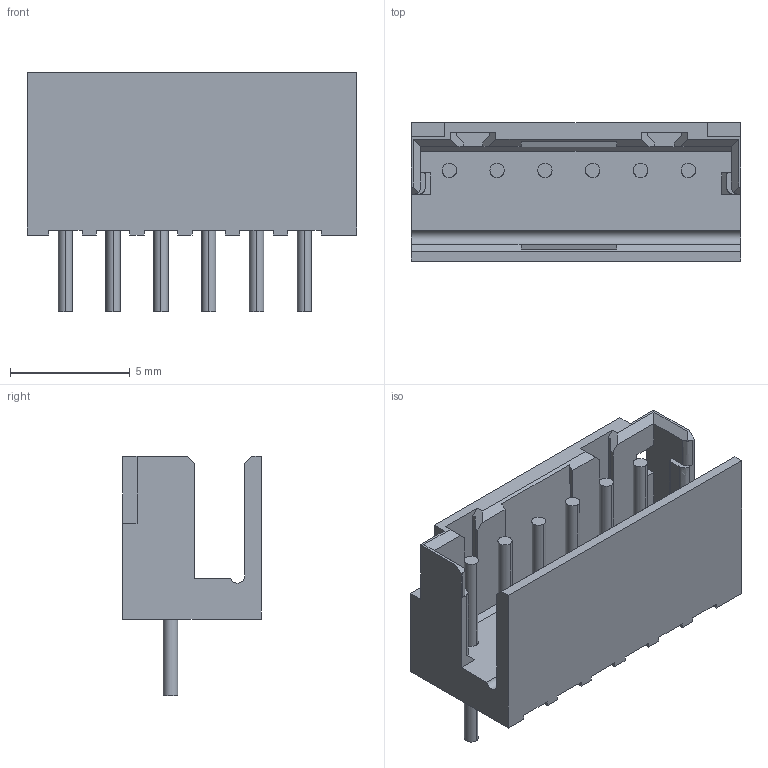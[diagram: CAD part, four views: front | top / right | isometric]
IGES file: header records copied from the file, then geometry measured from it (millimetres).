
Start section:  PTC IGES file: c-2-292132-6-b1-3d.igs
Global section: file name: c-2-292132-6-b1-3d.igs; native system: Creo Parametric by PTC Inc.; preprocessor: 2016050; author: workeradm; organization: Unknown; units: millimetre
Bounding box: 13.8 x 5.8 x 10 mm (x, y, z)
Surface area: 671.1 mm2 (no closed solid volume)
Topology: 0 solids, 0 shells, 133 faces, 730 edges, 730 vertices
Faces by surface type: bspline 102, revolution 31
